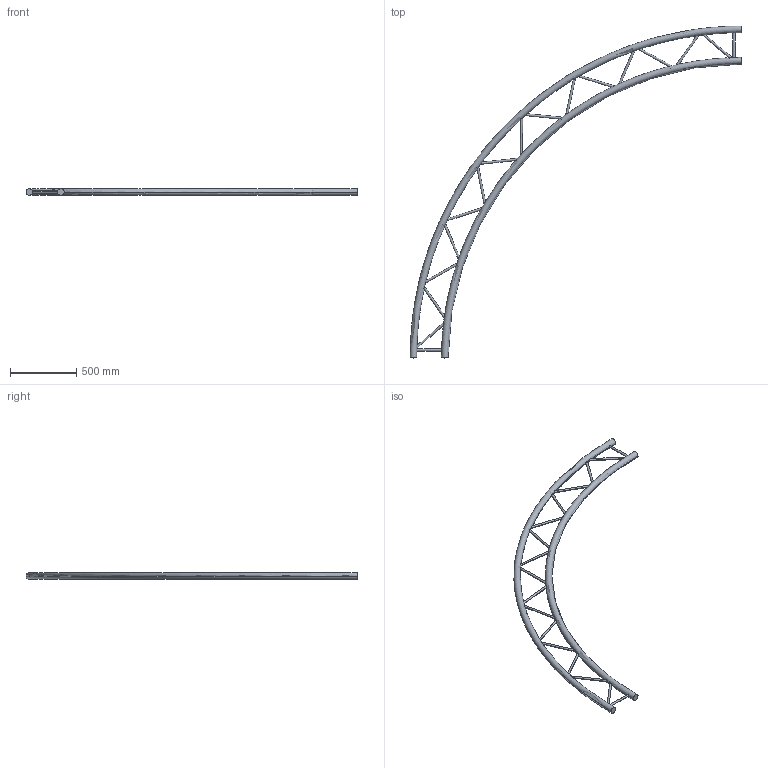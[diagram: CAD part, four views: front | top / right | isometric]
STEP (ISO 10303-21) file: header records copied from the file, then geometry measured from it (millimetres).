
FILE_DESCRIPTION (( 'STEP AP203' ), '1' );
FILE_NAME ('EXC29500H.STEP', '2009-10-26T09:36:00', ( 'CEDIA' ), ( 'CEDIA INDUSTRIE' ), 'SwSTEP 2.0', 'SolidWorks 2009', '' );
FILE_SCHEMA (( 'CONFIG_CONTROL_DESIGN' ));
Length unit declared in the file: millimetre
Products named in the file (1): EXC29500H
Bounding box: 2500 x 2500 x 50 mm (x, y, z)
Volume: 15414696.5 mm3; surface area: 1381417.9 mm2
Topology: 1 solids, 1 shells, 42 faces, 148 edges, 76 vertices
Faces by surface type: cylinder 34, torus 4, plane 4
Entity records: 4670 total; most frequent: CARTESIAN_POINT 3418, ORIENTED_EDGE 296, DIRECTION 212, EDGE_CURVE 148, AXIS2_PLACEMENT_3D 89, VERTEX_POINT 76, B_SPLINE_CURVE_WITH_KNOTS 68, CIRCLE 46
